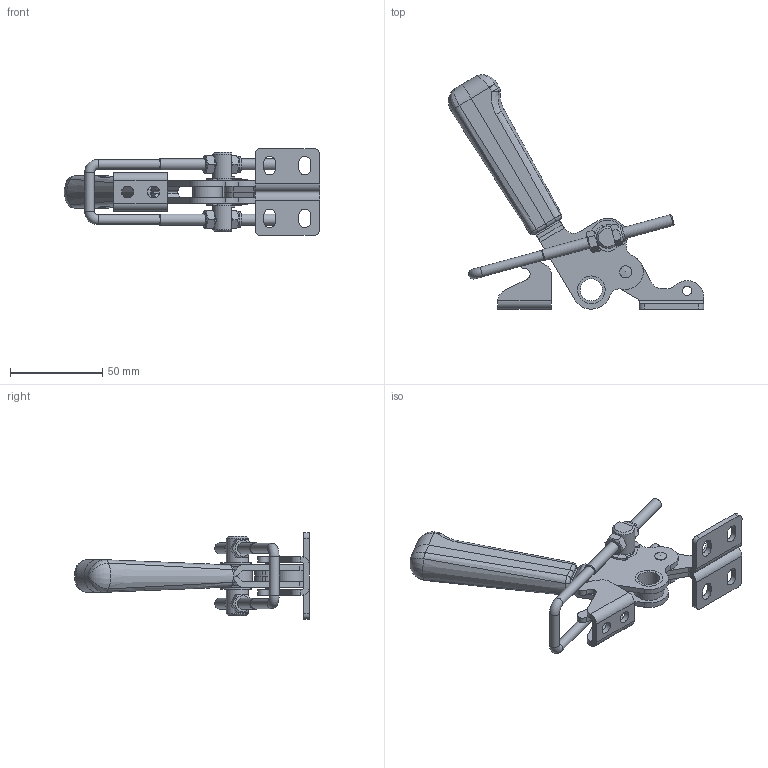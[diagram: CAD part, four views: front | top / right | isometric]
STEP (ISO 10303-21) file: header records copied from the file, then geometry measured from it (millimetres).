
FILE_DESCRIPTION(/* description */ (''),/* implementation_level */ '2;1');
FILE_NAME(/* name */ '/Users/eric/Desktop/Abco 1423 Open:Ouverte.stp',/* time_stamp */ '2014-08-15T18:11:56+10:00',/* author */ (''),/* organization */ (''),/* preprocessor_version */ 'ST-DEVELOPER v14.6',/* originating_system */ '',/* authorisation */ '');
FILE_SCHEMA (('AUTOMOTIVE_DESIGN { 1 2 10303 214 1 1 1 1 }'));
Length unit declared in the file: centimetre
Products named in the file (1): 1234-K789
Bounding box: 138.33 x 127.07 x 47 mm (x, y, z)
Volume: 62916 mm3; surface area: 47321.7 mm2
Topology: 20 solids, 20 shells, 375 faces, 927 edges, 590 vertices
Faces by surface type: plane 154, cylinder 147, cone 38, bspline 24, torus 8, sphere 4
Full cylindrical faces by diameter (mm): 4.917 x4, 5 x2, 5.3 x3, 6 x9, 6.2 x2, 6.5 x2, 8 x3, 8.5 x2, 9 x2, 12 x5, 15 x8, 16 x2
Entity records: 11339 total; most frequent: CARTESIAN_POINT 2867, DIRECTION 1766, ORIENTED_EDGE 1662, EDGE_CURVE 831, AXIS2_PLACEMENT_3D 705, VERTEX_POINT 572, EDGE_LOOP 505, ADVANCED_FACE 375
